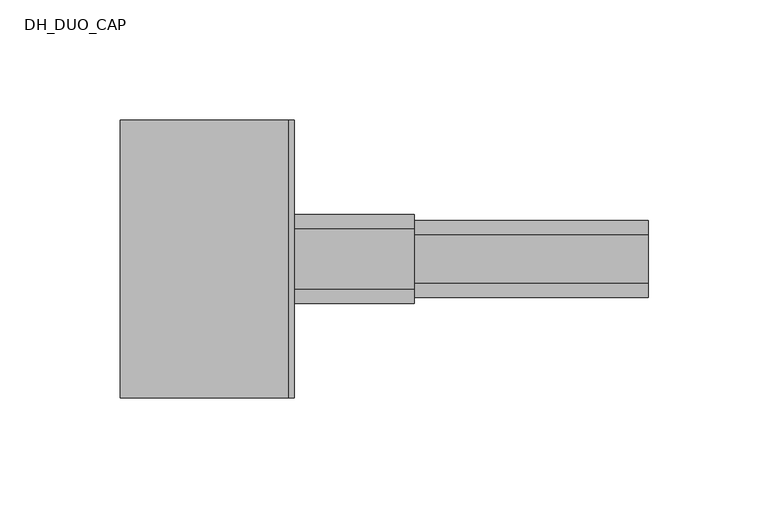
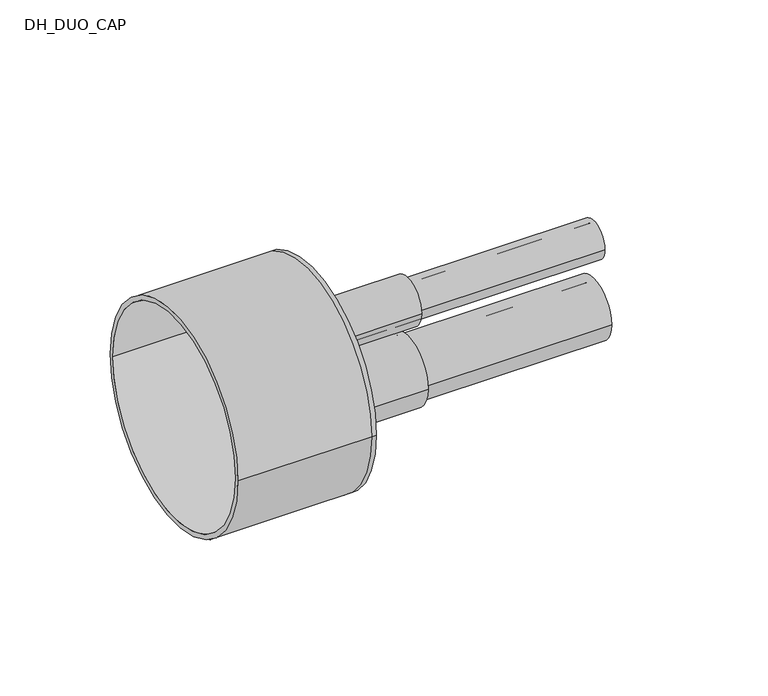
"""IFC4 building model written with IfcOpenShell, lengths in millimetres: pipe fitting geometry, DH_DUO_CAP : RAUTHERMEX DUO 7.4 DW - Rubber Cap."""

from ifc_helpers import new_model, si_unit, point, frame, frame_2d, origin, place, context, project, spatial, polyline, circle_curve, trimmed, segment, composite_curve, outline, extrude, source, transform, mapped, element, save
from ifc_brep_helpers import plane_surface, cylinder_surface, revolved_surface, advanced_brep


def dh_duo_cap_e41fb6d8(model_context):
    return source(origin(), model_context, "Body", "SolidModel", [
        extrude(outline(composite_curve([segment(trimmed(circle_curve(frame_2d((0.0, -16.0)), 16.0), [point((-16.0, -16.0))], [point((16.0, -16.0))], False, "CARTESIAN"), True, "CONTINUOUS"), segment(trimmed(circle_curve(frame_2d((0.0, -16.0)), 16.0), [point((16.0, -16.0))], [point((-16.0, -16.0))], False, "CARTESIAN"), True, "CONTINUOUS")], self_intersect=False), holes=[composite_curve([segment(trimmed(circle_curve(frame_2d((0.0, -16.0)), 11.6), [point((-11.6, -16.0))], [point((11.6, -16.0))], True, "CARTESIAN"), True, "CONTINUOUS"), segment(trimmed(circle_curve(frame_2d((0.0, -16.0)), 11.6), [point((11.6, -16.0))], [point((-11.6, -16.0))], True, "CARTESIAN"), True, "CONTINUOUS")], self_intersect=False)]), frame((0.0, 0.0, 0.0), z_axis=(1.0, 0.0, 0.0), x_axis=(0.0, 1.0, 0.0)), (0.0, 0.0, 1.0), 150.0),
        extrude(outline(composite_curve([segment(trimmed(circle_curve(frame_2d((0.0, 22.0)), 10.0), [point((-10.0, 22.0))], [point((10.0, 22.0))], False, "CARTESIAN"), True, "CONTINUOUS"), segment(trimmed(circle_curve(frame_2d((0.0, 22.0)), 10.0), [point((10.0, 22.0))], [point((-10.0, 22.0))], False, "CARTESIAN"), True, "CONTINUOUS")], self_intersect=False), holes=[composite_curve([segment(trimmed(circle_curve(frame_2d((0.0, 22.0)), 7.2), [point((-7.2, 22.0))], [point((7.2, 22.0))], True, "CARTESIAN"), True, "CONTINUOUS"), segment(trimmed(circle_curve(frame_2d((0.0, 22.0)), 7.2), [point((7.2, 22.0))], [point((-7.2, 22.0))], True, "CARTESIAN"), True, "CONTINUOUS")], self_intersect=False)]), frame((0.0, 0.0, 0.0), z_axis=(1.0, 0.0, 0.0), x_axis=(0.0, 1.0, 0.0)), (0.0, 0.0, 1.0), 150.0),
        advanced_brep(
        [(-70.0, -58.0, 0.0), (-70.0, 58.0, 0.0), (-70.0, -55.5, 0.0), (-70.0, 55.5, 0.0), (0.0, -55.5, 0.0), (0.0, 55.5, 0.0), (0.0, -58.0, 0.0), (0.0, 58.0, 0.0), (0.0, 10.0, 22.0), (0.0, -10.0, 22.0), (0.0, 16.0, -16.0), (0.0, -16.0, -16.0), (2.5, -58.0, 0.0), (2.5, 58.0, 0.0), (2.5, -10.0, 22.0), (2.5, 10.0, 22.0), (2.5, -16.0, -16.0), (2.5, 16.0, -16.0)],
        [
            (0, 1, circle_curve(frame((-70.0, 0.0, 0.0), z_axis=(-1.0, 0.0, 0.0), x_axis=(0.0, 1.0, 0.0)), 58.0)),
            (1, 0, circle_curve(frame((-70.0, 0.0, 0.0), z_axis=(-1.0, 0.0, 0.0), x_axis=(0.0, 1.0, 0.0)), 58.0)),
            (2, 3, circle_curve(frame((-70.0, 0.0, 0.0), z_axis=(1.0, 0.0, 0.0), x_axis=(0.0, 1.0, 0.0)), 55.5)),
            (3, 2, circle_curve(frame((-70.0, 0.0, 0.0), z_axis=(1.0, 0.0, 0.0), x_axis=(0.0, 1.0, 0.0)), 55.5)),
            (2, 4),
            (4, 5, circle_curve(frame((0.0, 0.0, 0.0), z_axis=(1.0, 0.0, 0.0), x_axis=(0.0, 1.0, 0.0)), 55.5)),
            (5, 3),
            (5, 4, circle_curve(frame((0.0, 0.0, 0.0), z_axis=(1.0, 0.0, 0.0), x_axis=(0.0, 1.0, 0.0)), 55.5)),
            (0, 6),
            (6, 7, circle_curve(frame((0.0, 0.0, 0.0), z_axis=(-1.0, 0.0, 0.0), x_axis=(0.0, 1.0, 0.0)), 58.0)),
            (7, 1),
            (7, 6, circle_curve(frame((0.0, 0.0, 0.0), z_axis=(-1.0, 0.0, 0.0), x_axis=(0.0, 1.0, 0.0)), 58.0)),
            (8, 9, circle_curve(frame((0.0, 0.0, 22.0), z_axis=(1.0, 0.0, 0.0), x_axis=(0.0, 1.0, 0.0)), 10.0)),
            (9, 8, circle_curve(frame((0.0, 0.0, 22.0), z_axis=(1.0, 0.0, 0.0), x_axis=(0.0, 1.0, 0.0)), 10.0)),
            (10, 11, circle_curve(frame((0.0, 0.0, -16.0), z_axis=(1.0, 0.0, 0.0), x_axis=(0.0, 1.0, 0.0)), 16.0)),
            (11, 10, circle_curve(frame((0.0, 0.0, -16.0), z_axis=(1.0, 0.0, 0.0), x_axis=(0.0, 1.0, 0.0)), 16.0)),
            (12, 13, circle_curve(frame((2.5, 0.0, 0.0), z_axis=(1.0, 0.0, 0.0), x_axis=(0.0, 1.0, 0.0)), 58.0)),
            (13, 12, circle_curve(frame((2.5, 0.0, 0.0), z_axis=(1.0, 0.0, 0.0), x_axis=(0.0, 1.0, 0.0)), 58.0)),
            (14, 15, circle_curve(frame((2.5, 0.0, 22.0), z_axis=(-1.0, 0.0, 0.0), x_axis=(0.0, 1.0, 0.0)), 10.0)),
            (15, 14, circle_curve(frame((2.5, 0.0, 22.0), z_axis=(-1.0, 0.0, 0.0), x_axis=(0.0, 1.0, 0.0)), 10.0)),
            (16, 17, circle_curve(frame((2.5, 0.0, -16.0), z_axis=(-1.0, 0.0, 0.0), x_axis=(0.0, 1.0, 0.0)), 16.0)),
            (17, 16, circle_curve(frame((2.5, 0.0, -16.0), z_axis=(-1.0, 0.0, 0.0), x_axis=(0.0, 1.0, 0.0)), 16.0)),
            (13, 7),
            (6, 12),
            (8, 15),
            (14, 9),
            (10, 17),
            (16, 11),
        ],
        [
            plane_surface(frame((-70.0, 0.0, 0.0), z_axis=(-1.0, 0.0, 0.0), x_axis=(0.0, 0.0, 1.0))),
            revolved_surface(polyline([(0.0, 55.5, 0.0), (-70.0, 55.5, 0.0)]), (-70.0, 0.0, 0.0), (1.0, 0.0, 0.0)),
            cylinder_surface(frame((-70.0, 0.0, 0.0), z_axis=(-1.0, 0.0, 0.0), x_axis=(0.0, 1.0, 0.0)), 58.0),
            plane_surface(frame((0.0, 0.0, 0.0), z_axis=(-1.0, 0.0, 0.0), x_axis=(0.0, 0.0, 1.0))),
            plane_surface(frame((2.5, 0.0, 0.0), z_axis=(1.0, 0.0, 0.0), x_axis=(0.0, 0.0, 1.0))),
            cylinder_surface(frame((0.0, 0.0, 0.0), z_axis=(-1.0, 0.0, 0.0), x_axis=(0.0, 1.0, 0.0)), 58.0),
            revolved_surface(polyline([(0.0, 10.0, 22.0), (2.5, 10.0, 22.0)]), (0.0, 0.0, 22.0), (-1.0, 0.0, 0.0)),
            revolved_surface(polyline([(0.0, 16.0, -16.0), (2.5, 16.0, -16.0)]), (0.0, 0.0, -16.0), (-1.0, 0.0, 0.0)),
        ],
        [
            (0, [[1, 2], [3, 4]]),
            (1, [[-3, 5, 6, 7]]),
            (1, [[-4, -7, 8, -5]]),
            (2, [[-1, 9, 10, 11]]),
            (2, [[-2, -11, 12, -9]]),
            (3, [[-6, -8], [13, 14], [15, 16]]),
            (4, [[17, 18], [19, 20], [21, 22]]),
            (5, [[-18, 23, -10, 24]]),
            (5, [[-17, -24, -12, -23]]),
            (6, [[25, -19, 26, -13]]),
            (6, [[-25, -14, -26, -20]]),
            (7, [[27, -21, 28, -15]]),
            (7, [[-27, -16, -28, -22]]),
        ],
    ),
        extrude(outline(composite_curve([segment(trimmed(circle_curve(frame_2d((0.0, -16.0)), 18.5), [point((-18.5, -16.0))], [point((18.5, -16.0))], False, "CARTESIAN"), True, "CONTINUOUS"), segment(trimmed(circle_curve(frame_2d((0.0, -16.0)), 18.5), [point((18.5, -16.0))], [point((-18.5, -16.0))], False, "CARTESIAN"), True, "CONTINUOUS")], self_intersect=False), holes=[composite_curve([segment(trimmed(circle_curve(frame_2d((0.0, -16.0)), 16.0), [point((-16.0, -16.0))], [point((16.0, -16.0))], True, "CARTESIAN"), True, "CONTINUOUS"), segment(trimmed(circle_curve(frame_2d((0.0, -16.0)), 16.0), [point((16.0, -16.0))], [point((-16.0, -16.0))], True, "CARTESIAN"), True, "CONTINUOUS")], self_intersect=False)]), frame((2.5, 0.0, 0.0), z_axis=(1.0, 0.0, 0.0), x_axis=(0.0, 1.0, 0.0)), (0.0, 0.0, 1.0), 50.0),
        extrude(outline(composite_curve([segment(trimmed(circle_curve(frame_2d((0.0, 22.0)), 12.5), [point((-12.5, 22.0))], [point((12.5, 22.0))], False, "CARTESIAN"), True, "CONTINUOUS"), segment(trimmed(circle_curve(frame_2d((0.0, 22.0)), 12.5), [point((12.5, 22.0))], [point((-12.5, 22.0))], False, "CARTESIAN"), True, "CONTINUOUS")], self_intersect=False), holes=[composite_curve([segment(trimmed(circle_curve(frame_2d((0.0, 22.0)), 10.0), [point((-10.0, 22.0))], [point((10.0, 22.0))], True, "CARTESIAN"), True, "CONTINUOUS"), segment(trimmed(circle_curve(frame_2d((0.0, 22.0)), 10.0), [point((10.0, 22.0))], [point((-10.0, 22.0))], True, "CARTESIAN"), True, "CONTINUOUS")], self_intersect=False)]), frame((2.5, 0.0, 0.0), z_axis=(1.0, 0.0, 0.0), x_axis=(0.0, 1.0, 0.0)), (0.0, 0.0, 1.0), 50.0),
    ])


if __name__ == "__main__":
    model = new_model("IFC4")
    model_context = context("Model", 3, world=origin())
    ifc_project = project(units=[si_unit("LENGTHUNIT", "METRE", prefix="MILLI")], contexts=[model_context])
    site = spatial("IfcSite", under=ifc_project)
    building = spatial("IfcBuilding", under=site)
    placement = place(None, origin())
    dh_duo_cap_shape = dh_duo_cap_e41fb6d8(model_context)
    element("IfcPipeFitting", 1, ObjectType="DH_DUO_CAP : RAUTHERMEX DUO 7.4 DW - Rubber Cap", at=placement, inside=building, context=model_context, shape_type="MappedRepresentation", body=[
        mapped(dh_duo_cap_shape, transform((0.0, 0.0, 0.0), x_axis=(1.0, 0.0, 0.0), y_axis=(0.0, 1.0, 0.0), z_axis=(0.0, 0.0, 1.0))),
    ])
    save(model, "model.ifc")
